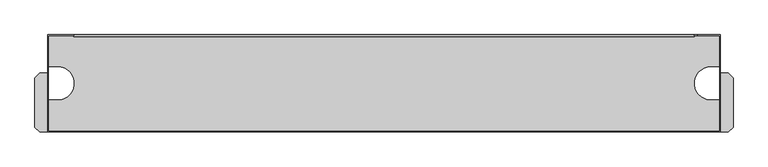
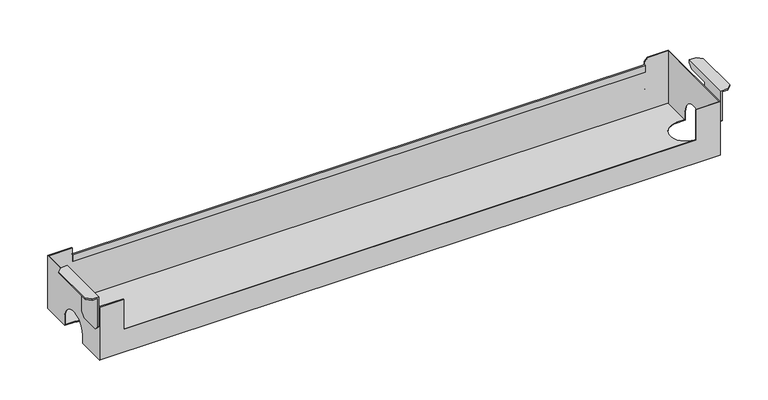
"""IFC4 building model written with IfcOpenShell, lengths in millimetres: furniture geometry, FREZZA_POP AD_Cable tray_for Desk : W1000 mm Structure_ZGBI - Embossed White."""

from ifc_helpers import new_model, si_unit, frame, origin, place, context, project, spatial, polyline, circle_curve, faceted_brep, source, transform, mapped, element, save
from ifc_brep_helpers import plane_surface, cylinder_surface, revolved_surface, advanced_brep


def furniture_4f8d3af2(model_context):
    return source(origin(), model_context, "Body", "SolidModel", [
        faceted_brep([(428.0710678, -203.5, 725.0), (439.0, -203.5, 725.0), (439.0, -115.5, 725.0), (428.0710678, -115.5, 725.0), (421.0, -122.5710678, 725.0), (421.0, -196.4289322, 725.0), (428.0710678, -203.5, 723.0), (421.0, -196.4289322, 723.0), (421.0, -122.5710678, 723.0), (428.0710678, -115.5, 723.0), (437.0, -115.5, 723.0), (437.0, -203.5, 723.0), (437.0, -203.5, 674.0710678), (439.0, -203.5, 674.0710678), (439.0, -115.5, 720.0710678), (437.0, -115.5, 720.0710678), (439.0, -196.4289322, 667.0), (439.0, -165.5710678, 667.0), (439.0, -158.5, 674.0710678), (439.0, -158.5, 713.0), (439.0, -122.5710678, 713.0), (437.0, -165.5710678, 667.0), (437.0, -196.4289322, 667.0), (437.0, -122.5710678, 713.0), (437.0, -158.5, 713.0), (437.0, -158.5, 674.0710678)], [[[0, 1, 2, 3, 4, 5]], [[6, 7, 8, 9, 10, 11]], [[0, 6, 11, 12, 13, 1]], [[0, 5, 7, 6]], [[5, 4, 8, 7]], [[4, 3, 9, 8]], [[9, 3, 2, 14, 15, 10]], [[14, 2, 1, 13, 16, 17, 18, 19, 20]], [[21, 22, 12, 11, 10, 15, 23, 24, 25]], [[17, 16, 22, 21]], [[16, 13, 12, 22]], [[14, 20, 23, 15]], [[20, 19, 24, 23]], [[19, 18, 25, 24]], [[18, 17, 21, 25]]]),
        faceted_brep([(1441.0, -203.5, 725.0), (1451.9289322, -203.5, 725.0), (1459.0, -196.4289322, 725.0), (1459.0, -122.5710678, 725.0), (1451.9289322, -115.5, 725.0), (1441.0, -115.5, 725.0), (1451.9289322, -115.5, 723.0), (1459.0, -122.5710678, 723.0), (1459.0, -196.4289322, 723.0), (1451.9289322, -203.5, 723.0), (1443.0, -203.5, 723.0), (1443.0, -115.5, 723.0), (1441.0, -203.5, 674.0710678), (1443.0, -203.5, 674.0710678), (1443.0, -115.5, 720.0710678), (1441.0, -115.5, 720.0710678), (1441.0, -122.5710678, 713.0), (1441.0, -158.5, 713.0), (1441.0, -158.5, 674.0710678), (1441.0, -165.5710678, 667.0), (1441.0, -196.4289322, 667.0), (1443.0, -165.5710678, 667.0), (1443.0, -158.5, 674.0710678), (1443.0, -158.5, 713.0), (1443.0, -122.5710678, 713.0), (1443.0, -196.4289322, 667.0)], [[[0, 1, 2, 3, 4, 5]], [[6, 7, 8, 9, 10, 11]], [[12, 13, 10, 9, 1, 0]], [[2, 1, 9, 8]], [[3, 2, 8, 7]], [[4, 3, 7, 6]], [[4, 6, 11, 14, 15, 5]], [[12, 0, 5, 15, 16, 17, 18, 19, 20]], [[21, 22, 23, 24, 14, 11, 10, 13, 25]], [[20, 19, 21, 25]], [[12, 20, 25, 13]], [[16, 15, 14, 24]], [[17, 16, 24, 23]], [[18, 17, 23, 22]], [[19, 18, 22, 21]]]),
        advanced_brep(
        [(478.75, -203.5, 707.0), (478.75, -202.5, 707.0), (441.0, -202.5, 707.0), (441.0, -59.5, 707.0), (478.75, -59.5, 707.0), (478.75, -58.5, 707.0), (440.0, -58.5, 707.0), (440.0, -203.5, 707.0), (478.75, -58.5, 655.3463745), (478.962132, -58.5, 655.3463745), (478.962132, -58.5, 695.75), (1401.037868, -58.5, 695.75), (1401.037868, -58.5, 655.3463745), (1401.25, -58.5, 655.3463745), (1401.25, -58.5, 702.0), (1406.25, -58.5, 707.0), (1440.0, -58.5, 707.0), (1440.0, -58.5, 618.05), (1440.0, -58.5, 616.5963745), (441.0, -58.5, 616.5963745), (440.0, -58.5, 616.5963745), (478.75, -59.5, 655.3463745), (441.0, -59.5, 618.05), (1439.0, -59.5, 618.05), (1439.0, -59.5, 707.0), (1406.25, -59.5, 707.0), (1401.25, -59.5, 702.0), (1401.25, -59.5, 655.3463745), (1401.037868, -59.5, 655.3463745), (1401.037868, -59.5, 685.0), (478.962132, -59.5, 685.0), (478.962132, -59.5, 655.3463745), (440.0, -106.1, 616.5963745), (440.0, -106.1, 631.0), (440.0, -155.9, 631.0), (440.0, -155.9, 616.5963745), (440.0, -203.5, 616.5963745), (1440.0, -106.1, 616.5963745), (1426.0, -106.1, 616.5963745), (1426.0, -155.9, 616.5963745), (1440.0, -155.9, 616.5963745), (1440.0, -203.5, 616.5963745), (441.0, -203.5, 616.5963745), (455.0, -155.9, 616.5963745), (455.0, -106.1, 616.5963745), (1439.0, -202.5, 707.0), (1401.25, -202.5, 707.0), (1401.25, -203.5, 707.0), (1440.0, -203.5, 707.0), (1440.0, -155.9, 631.0), (1440.0, -106.1, 631.0), (1440.0, -203.5, 618.05), (1439.0, -106.1, 631.0), (1439.0, -155.9, 631.0), (1439.0, -155.9, 618.05), (1439.0, -202.5, 618.05), (1439.0, -106.1, 618.05), (1401.25, -203.5, 655.3463745), (478.75, -203.5, 655.3463745), (1426.0, -155.9, 618.05), (1426.0, -106.1, 618.05), (478.962132, -61.0, 685.0), (478.962132, -61.0, 695.75), (1401.037868, -61.0, 695.75), (1401.037868, -61.0, 685.0), (478.75, -202.5, 655.3463745), (1401.25, -202.5, 655.3463745), (441.0, -202.5, 618.05), (441.0, -106.1, 618.05), (455.0, -106.1, 618.05), (455.0, -155.9, 618.05), (441.0, -155.9, 618.05), (441.0, -106.1, 631.0), (441.0, -155.9, 631.0)],
        [
            (0, 1),
            (1, 2),
            (2, 3),
            (3, 4),
            (4, 5),
            (5, 6),
            (6, 7),
            (7, 0),
            (5, 8),
            (8, 9),
            (9, 10),
            (10, 11),
            (11, 12),
            (12, 13),
            (13, 14),
            (14, 15),
            (15, 16),
            (16, 17),
            (17, 18),
            (18, 19),
            (19, 20),
            (20, 6),
            (4, 21),
            (21, 8),
            (3, 22),
            (22, 23),
            (23, 24),
            (24, 25),
            (25, 26),
            (26, 27),
            (27, 28),
            (28, 29),
            (29, 30),
            (30, 31),
            (31, 21),
            (20, 32),
            (32, 33),
            (33, 34, circle_curve(frame((440.0, -131.0, 631.0), z_axis=(1.0, 0.0, 0.0), x_axis=(0.0, 1.0, 0.0)), 24.9)),
            (34, 35),
            (35, 36),
            (36, 7),
            (31, 9),
            (27, 13),
            (12, 28),
            (18, 37),
            (37, 38),
            (38, 39, circle_curve(frame((1426.0, -131.0, 616.5963745), z_axis=(0.0, 0.0, 1.0), x_axis=(-1.0, 0.0, 0.0)), 24.9)),
            (39, 40),
            (40, 41),
            (41, 42),
            (42, 36),
            (35, 43),
            (43, 44, circle_curve(frame((455.0, -131.0, 616.5963745), z_axis=(0.0, 0.0, 1.0), x_axis=(-1.0, 0.0, 0.0)), 24.9)),
            (44, 32),
            (15, 25),
            (24, 45),
            (45, 46),
            (46, 47),
            (47, 48),
            (48, 16),
            (26, 14),
            (49, 50, circle_curve(frame((1440.0, -131.0, 631.0), z_axis=(-1.0, 0.0, 0.0), x_axis=(0.0, 1.0, 0.0)), 24.9)),
            (50, 37),
            (48, 51),
            (51, 41),
            (40, 49),
            (52, 53, circle_curve(frame((1439.0, -131.0, 631.0), z_axis=(1.0, 0.0, 0.0), x_axis=(0.0, 1.0, 0.0)), 24.9)),
            (53, 54),
            (54, 55),
            (55, 45),
            (23, 56),
            (56, 52),
            (47, 57),
            (57, 58),
            (58, 0),
            (53, 49),
            (39, 59),
            (59, 54),
            (52, 50),
            (56, 60),
            (60, 38),
            (30, 61),
            (61, 62),
            (62, 10, circle_curve(frame((478.962132, -59.75, 695.75), z_axis=(-1.0, 0.0, 0.0), x_axis=(0.0, 1.0, 0.0)), 1.25)),
            (11, 63, circle_curve(frame((1401.037868, -59.75, 695.75), z_axis=(1.0, 0.0, 0.0), x_axis=(0.0, 1.0, 0.0)), 1.25)),
            (63, 64),
            (64, 29),
            (64, 61),
            (63, 62),
            (58, 65),
            (65, 1),
            (65, 66),
            (66, 46),
            (55, 67),
            (67, 2),
            (57, 66),
            (59, 60, circle_curve(frame((1426.0, -131.0, 618.05), z_axis=(0.0, 0.0, -1.0), x_axis=(-1.0, 0.0, 0.0)), 24.9)),
            (22, 68),
            (68, 69),
            (69, 70, circle_curve(frame((455.0, -131.0, 618.05), z_axis=(0.0, 0.0, -1.0), x_axis=(-1.0, 0.0, 0.0)), 24.9)),
            (70, 71),
            (71, 67),
            (44, 69),
            (68, 72),
            (72, 33),
            (43, 70),
            (34, 73),
            (73, 71),
            (73, 72, circle_curve(frame((441.0, -131.0, 631.0), z_axis=(-1.0, 0.0, 0.0), x_axis=(0.0, 1.0, 0.0)), 24.9)),
        ],
        [
            plane_surface(frame((440.0, -130.5, 707.0), z_axis=(0.0, 0.0, 1.0), x_axis=(0.0, -1.0, 0.0))),
            plane_surface(frame((478.75, -58.5, 707.0), z_axis=(0.0, 1.0, 0.0), x_axis=(0.0, 0.0, -1.0))),
            plane_surface(frame((478.75, -59.5, 707.0), z_axis=(1.0, 0.0, 0.0), x_axis=(0.0, 0.0, -1.0))),
            plane_surface(frame((440.0, -59.5, 707.0), z_axis=(0.0, -1.0, 0.0), x_axis=(0.0, 0.0, -1.0))),
            plane_surface(frame((440.0, -58.5, 707.0), z_axis=(-1.0, 0.0, 0.0), x_axis=(0.0, 0.0, -1.0))),
            plane_surface(frame((478.75, -59.5, 655.3463745), z_axis=(0.0, 0.0, 1.0), x_axis=(1.0, 0.0, 0.0))),
            plane_surface(frame((440.0, -58.5, 616.5963745), z_axis=(0.0, 0.0, -1.0), x_axis=(1.0, 0.0, 0.0))),
            plane_surface(frame((1440.0, -130.5, 707.0), z_axis=(0.0, 0.0, 1.0), x_axis=(0.0, -1.0, 0.0))),
            plane_surface(frame((1401.25, -59.5, 655.3463745), z_axis=(-1.0, 0.0, 0.0), x_axis=(0.0, 0.0, 1.0))),
            plane_surface(frame((1440.0, -58.5, 616.5963745), z_axis=(1.0, 0.0, 0.0), x_axis=(0.0, 0.0, 1.0))),
            plane_surface(frame((1439.0, -58.5, 707.0), z_axis=(-1.0, 0.0, 0.0), x_axis=(0.0, 0.0, -1.0))),
            plane_surface(frame((1439.0, -203.5, 616.5963745), z_axis=(0.0, -1.0, 0.0), x_axis=(1.0, 0.0, 0.0))),
            plane_surface(frame((1439.0, -155.9, 631.0), z_axis=(0.0, 1.0, 0.0), x_axis=(1.0, 0.0, 0.0))),
            revolved_surface(polyline([(1440.0, -106.1, 631.0), (1439.0, -106.1, 631.0)]), (1440.0, -131.0, 631.0), (1.0, 0.0, 0.0)),
            plane_surface(frame((1439.0, -106.1, 616.5963745), z_axis=(0.0, -1.0, 0.0), x_axis=(1.0, 0.0, 0.0))),
            plane_surface(frame((478.962132, -58.5, 707.0), z_axis=(-1.0, 0.0, 0.0), x_axis=(0.0, 0.0, 1.0))),
            plane_surface(frame((1401.037868, -58.5, 707.0), z_axis=(1.0, 0.0, 0.0), x_axis=(0.0, 0.0, 1.0))),
            plane_surface(frame((478.962132, -59.5, 685.0), z_axis=(0.0, 0.0, -1.0), x_axis=(1.0, 0.0, 0.0))),
            plane_surface(frame((478.962132, -61.0, 685.0), z_axis=(0.0, -1.0, 0.0), x_axis=(1.0, 0.0, 0.0))),
            cylinder_surface(frame((478.962132, -59.75, 695.75), z_axis=(-1.0, 0.0, 0.0), x_axis=(0.0, 1.0, 0.0)), 1.25),
            plane_surface(frame((478.75, -203.5, 707.0), z_axis=(1.0, 0.0, 0.0), x_axis=(0.0, 0.0, -1.0))),
            plane_surface(frame((478.75, -202.5, 707.0), z_axis=(0.0, 1.0, 0.0), x_axis=(0.0, 0.0, -1.0))),
            plane_surface(frame((478.75, -203.5, 655.3463745), z_axis=(0.0, 0.0, 1.0), x_axis=(1.0, 0.0, 0.0))),
            plane_surface(frame((1401.25, -203.5, 655.3463745), z_axis=(-1.0, 0.0, 0.0), x_axis=(0.0, 0.0, 1.0))),
            plane_surface(frame((1440.0, -203.5, 618.05), z_axis=(0.0, 0.0, 1.0), x_axis=(0.0, 1.0, 0.0))),
            revolved_surface(polyline([(1401.1, -131.0, 616.5963745), (1401.1, -131.0, 618.05)]), (1426.0, -131.0, 616.5963745), (0.0, 0.0, -1.0)),
            plane_surface(frame((440.0, -106.1, 618.05), z_axis=(0.0, -1.0, 0.0), x_axis=(0.0, 0.0, -1.0))),
            revolved_surface(polyline([(430.1, -131.0, 616.5963745), (430.1, -131.0, 618.05)]), (455.0, -131.0, 616.5963745), (0.0, 0.0, -1.0)),
            plane_surface(frame((455.0, -155.9, 618.05), z_axis=(0.0, 1.0, 0.0), x_axis=(0.0, 0.0, -1.0))),
            plane_surface(frame((441.0, -203.5, 707.0), z_axis=(1.0, 0.0, 0.0), x_axis=(0.0, -1.0, 0.0))),
            revolved_surface(polyline([(440.0, -106.1, 631.0), (441.0, -106.1, 631.0)]), (440.0, -131.0, 631.0), (-1.0, 0.0, 0.0)),
            plane_surface(frame((1406.25, -58.5, 707.0), z_axis=(-0.7071067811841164, 0.0, 0.7071067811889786), x_axis=(0.0, -1.0, 0.0))),
        ],
        [
            (0, [[1, 2, 3, 4, 5, 6, 7, 8]]),
            (1, [[-6, 9, 10, 11, 12, 13, 14, 15, 16, 17, 18, 19, 20, 21, 22]]),
            (2, [[-5, 23, 24, -9]]),
            (3, [[-23, -4, 25, 26, 27, 28, 29, 30, 31, 32, 33, 34, 35]]),
            (4, [[-7, -22, 36, 37, 38, 39, 40, 41]]),
            (5, [[-24, -35, 42, -10]]),
            (5, [[43, -14, 44, -31]]),
            (6, [[45, 46, 47, 48, 49, 50, 51, -40, 52, 53, 54, -36, -21, -20]]),
            (7, [[55, -28, 56, 57, 58, 59, 60, -17]]),
            (8, [[-43, -30, 61, -15]]),
            (9, [[62, 63, -45, -19, -18, -60, 64, 65, -49, 66]]),
            (10, [[67, 68, 69, 70, -56, -27, 71, 72]]),
            (11, [[73, 74, 75, -8, -41, -51, -50, -65, -64, -59]]),
            (12, [[76, -66, -48, 77, 78, -68]]),
            (13, [[-67, 79, -62, -76]]),
            (14, [[-79, -72, 80, 81, -46, -63]]),
            (15, [[-34, 82, 83, 84, -11, -42]]),
            (16, [[-13, 85, 86, 87, -32, -44]]),
            (17, [[-82, -33, -87, 88]]),
            (18, [[-83, -88, -86, 89]]),
            (19, [[-84, -89, -85, -12]]),
            (20, [[-1, -75, 90, 91]]),
            (21, [[-91, 92, 93, -57, -70, 94, 95, -2]]),
            (22, [[-74, 96, -92, -90]]),
            (23, [[-73, -58, -93, -96]]),
            (24, [[97, -80, -71, -26, 98, 99, 100, 101, 102, -94, -69, -78]]),
            (25, [[-97, -77, -47, -81]]),
            (26, [[-37, -54, 103, -99, 104, 105]]),
            (27, [[-100, -103, -53, 106]]),
            (28, [[-106, -52, -39, 107, 108, -101]]),
            (29, [[109, -104, -98, -25, -3, -95, -102, -108]]),
            (30, [[-109, -107, -38, -105]]),
            (31, [[-16, -61, -29, -55]]),
        ],
    ),
    ])


if __name__ == "__main__":
    model = new_model("IFC4")
    model_context = context("Model", 3, world=origin())
    ifc_project = project(units=[si_unit("LENGTHUNIT", "METRE", prefix="MILLI")], contexts=[model_context])
    site = spatial("IfcSite", under=ifc_project)
    building = spatial("IfcBuilding", under=site)
    placement = place(None, origin())
    furniture_shape = furniture_4f8d3af2(model_context)
    element("IfcFurniture", 1, ObjectType="FREZZA_POP AD_Cable tray_for Desk : W1000 mm Structure_ZGBI - Embossed White", at=placement, inside=building, context=model_context, shape_type="MappedRepresentation", body=[
        mapped(furniture_shape, transform((0.0, 0.0, 0.0), x_axis=(1.0, 0.0, 0.0), y_axis=(0.0, 1.0, 0.0), z_axis=(0.0, 0.0, 1.0))),
    ])
    save(model, "model.ifc")
